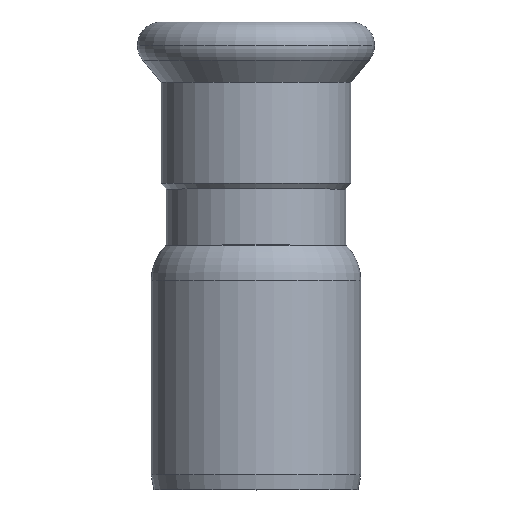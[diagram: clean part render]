
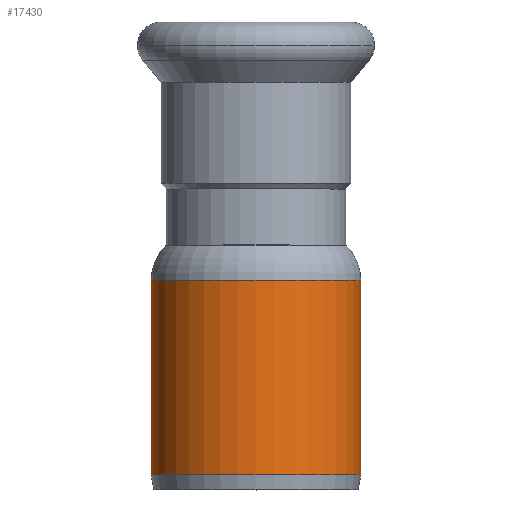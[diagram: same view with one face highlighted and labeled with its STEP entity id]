
A CAD part, top view. The second image highlights one B-rep face of the part: STEP entity #17430.
In plain terms, the highlighted cylindrical face has radius 14 mm (diameter 28 mm), a partial arc.
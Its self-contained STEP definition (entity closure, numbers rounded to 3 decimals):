
#110=CARTESIAN_POINT('',(-188.976,28.728,0.));
#120=VERTEX_POINT('',#110);
#170=CARTESIAN_POINT('',(-202.976,28.728,0.));
#180=DIRECTION('',(0.,-1.,0.));
#190=DIRECTION('',(-1.,0.,0.));
#200=AXIS2_PLACEMENT_3D('',#170,#180,#190);
#210=CIRCLE('',#200,14.);
#220=CARTESIAN_POINT('',(-216.976,28.728,0.));
#230=VERTEX_POINT('',#220);
#240=EDGE_CURVE('',#120,#230,#210,.T.);
#1870=CARTESIAN_POINT('',(-202.976,33.421,0.));
#1880=DIRECTION('',(0.,-1.,0.));
#1890=DIRECTION('',(1.,0.,0.));
#1900=AXIS2_PLACEMENT_3D('',#1870,#1880,#1890);
#1910=CYLINDRICAL_SURFACE('',#1900,14.);
#1920=CARTESIAN_POINT('',(-188.976,33.421,0.));
#1930=DIRECTION('',(0.,-1.,0.));
#1940=VECTOR('',#1930,1.);
#1950=LINE('',#1920,#1940);
#1960=CARTESIAN_POINT('',(-188.976,2.721,0.));
#1970=VERTEX_POINT('',#1960);
#1980=EDGE_CURVE('',#120,#1970,#1950,.T.);
#2020=CARTESIAN_POINT('',(-216.976,33.421,
0.));
#2030=DIRECTION('',(0.,-1.,0.));
#2040=VECTOR('',#2030,1.);
#2050=LINE('',#2020,#2040);
#2060=CARTESIAN_POINT('',(-216.976,2.721,
0.));
#2070=VERTEX_POINT('',#2060);
#2080=EDGE_CURVE('',#230,#2070,#2050,.T.);
#2100=CARTESIAN_POINT('',(-202.976,2.721,0.));
#2110=DIRECTION('',(0.,-1.,0.));
#2120=DIRECTION('',(-1.,0.,0.));
#2130=AXIS2_PLACEMENT_3D('',#2100,#2110,#2120);
#2140=CIRCLE('',#2130,14.);
#17360=ORIENTED_EDGE('',*,*,#1980,.F.);
#17370=EDGE_CURVE('',#1970,#2070,#2140,.T.);
#17380=ORIENTED_EDGE('',*,*,#17370,.F.);
#17390=ORIENTED_EDGE('',*,*,#2080,.T.);
#17400=ORIENTED_EDGE('',*,*,#240,.T.);
#17410=EDGE_LOOP('',(#17400,#17390,#17380,#17360));
#17420=FACE_OUTER_BOUND('',#17410,.T.);
#17430=ADVANCED_FACE('',(#17420),#1910,.T.);
